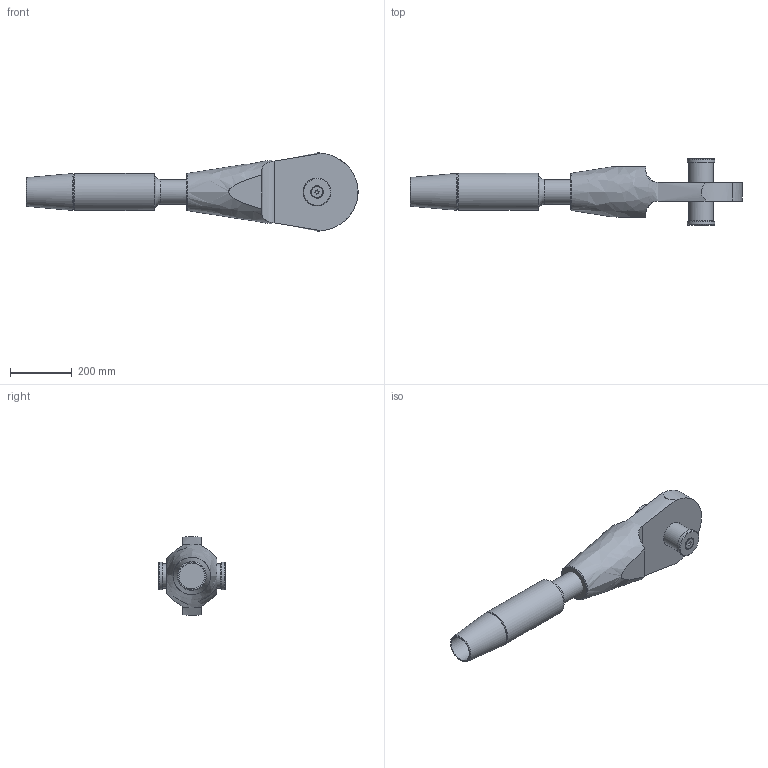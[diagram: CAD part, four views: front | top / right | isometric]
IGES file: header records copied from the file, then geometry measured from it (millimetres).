
Global section: file name: 520-080-OES-ADA; native system: Autodesk Inventor 2020; preprocessor: unknown; author: Administrator; date: 20201007.154257; units: millimetre
Bounding box: 1076.34 x 216 x 253.68 mm (x, y, z)
Volume: 14711629 mm3; surface area: 694116.9 mm2
Topology: 6 solids, 6 shells, 56 faces, 135 edges, 93 vertices
Faces by surface type: bspline 56
